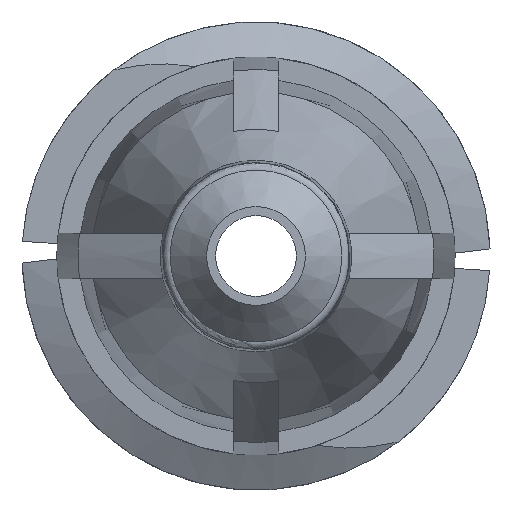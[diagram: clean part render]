
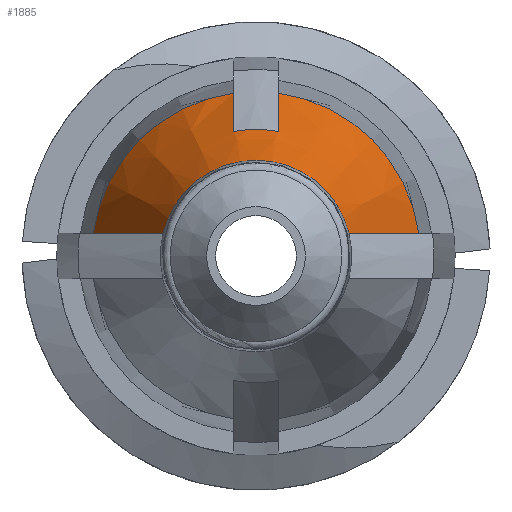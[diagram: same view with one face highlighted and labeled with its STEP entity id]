
A CAD part, front view. The second image highlights one B-rep face of the part: STEP entity #1885.
In plain terms, the highlighted conical face has half-angle 20 degrees and reference radius 2.745 mm.
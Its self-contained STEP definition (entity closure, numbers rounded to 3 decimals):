
#23 = CARTESIAN_POINT ( 'NONE',  ( 2.719, -10.312, 0.381 ) ) ;
#35 = CIRCLE ( 'NONE', #1357, 2.745 ) ;
#50 = B_SPLINE_CURVE_WITH_KNOTS ( 'NONE', 3,
 ( #81, #1373, #1864, #1890 ),
 .UNSPECIFIED., .F., .F.,
 ( 4, 4 ),
 ( 0.003, 0.007 ),
 .UNSPECIFIED. ) ;
#71 = CARTESIAN_POINT ( 'NONE',  ( -2.719, -10.312, 0.381 ) ) ;
#81 = CARTESIAN_POINT ( 'NONE',  ( 2.719, -10.312, 0.381 ) ) ;
#112 = CONICAL_SURFACE ( 'NONE', #945, 2.745, 0.349 ) ;
#205 = DIRECTION ( 'NONE',  ( 0., 1., 0. ) ) ;
#220 = VERTEX_POINT ( 'NONE', #443 ) ;
#227 = DIRECTION ( 'NONE',  ( 1., 0., 0. ) ) ;
#245 = EDGE_CURVE ( 'NONE', #1597, #777, #50, .T. ) ;
#330 = CIRCLE ( 'NONE', #1125, 2.745 ) ;
#374 = CARTESIAN_POINT ( 'NONE',  ( 0., -10.312, 0. ) ) ;
#395 = DIRECTION ( 'NONE',  ( 0., 1., 0. ) ) ;
#430 = ORIENTED_EDGE ( 'NONE', *, *, #678, .T. ) ;
#434 = CARTESIAN_POINT ( 'NONE',  ( 0., -12.038, 0. ) ) ;
#443 = CARTESIAN_POINT ( 'NONE',  ( -0.381, -10.312, 2.719 ) ) ;
#451 = CARTESIAN_POINT ( 'NONE',  ( -2.719, -10.312, 0.381 ) ) ;
#473 = CARTESIAN_POINT ( 'NONE',  ( -0.381, -10.888, 2.507 ) ) ;
#481 = CARTESIAN_POINT ( 'NONE',  ( 0.381, -12.038, 2.082 ) ) ;
#514 = CARTESIAN_POINT ( 'NONE',  ( 0.381, -10.312, 2.719 ) ) ;
#580 = CIRCLE ( 'NONE', #943, 2.117 ) ;
#594 = CARTESIAN_POINT ( 'NONE',  ( -0.381, -11.463, 2.295 ) ) ;
#602 = ORIENTED_EDGE ( 'NONE', *, *, #1614, .T. ) ;
#678 = EDGE_CURVE ( 'NONE', #1405, #220, #1277, .T. ) ;
#740 = DIRECTION ( 'NONE',  ( 0., 1., 0. ) ) ;
#741 = EDGE_CURVE ( 'NONE', #1202, #1230, #981, .T. ) ;
#746 = ORIENTED_EDGE ( 'NONE', *, *, #245, .F. ) ;
#761 = CARTESIAN_POINT ( 'NONE',  ( -0.381, -10.312, 2.719 ) ) ;
#777 = VERTEX_POINT ( 'NONE', #1637 ) ;
#795 = EDGE_CURVE ( 'NONE', #1422, #220, #35, .T. ) ;
#798 = DIRECTION ( 'NONE',  ( 0., 1., 0. ) ) ;
#819 = DIRECTION ( 'NONE',  ( 1., 0., 0. ) ) ;
#830 = EDGE_LOOP ( 'NONE', ( #746, #1796, #1199, #1826, #430, #1374, #1415, #602 ) ) ;
#943 = AXIS2_PLACEMENT_3D ( 'NONE', #434, #1225, #1060 ) ;
#945 = AXIS2_PLACEMENT_3D ( 'NONE', #1897, #740, #1889 ) ;
#981 = B_SPLINE_CURVE_WITH_KNOTS ( 'NONE', 3,
 ( #2084, #1587, #1598, #481 ),
 .UNSPECIFIED., .F., .F.,
 ( 4, 4 ),
 ( 0.003, 0.005 ),
 .UNSPECIFIED. ) ;
#1060 = DIRECTION ( 'NONE',  ( -1., 0., 0. ) ) ;
#1099 = EDGE_CURVE ( 'NONE', #1230, #1405, #580, .T. ) ;
#1125 = AXIS2_PLACEMENT_3D ( 'NONE', #374, #205, #1494 ) ;
#1164 = CARTESIAN_POINT ( 'NONE',  ( 0.381, -12.038, 2.082 ) ) ;
#1175 = CARTESIAN_POINT ( 'NONE',  ( -2.333, -11.362, 0.381 ) ) ;
#1199 = ORIENTED_EDGE ( 'NONE', *, *, #741, .T. ) ;
#1202 = VERTEX_POINT ( 'NONE', #514 ) ;
#1225 = DIRECTION ( 'NONE',  ( 0., -1., 0. ) ) ;
#1226 = CARTESIAN_POINT ( 'NONE',  ( -1.947, -12.411, 0.381 ) ) ;
#1230 = VERTEX_POINT ( 'NONE', #1164 ) ;
#1277 = B_SPLINE_CURVE_WITH_KNOTS ( 'NONE', 3,
 ( #1404, #594, #473, #761 ),
 .UNSPECIFIED., .F., .F.,
 ( 4, 4 ),
 ( 0.002, 0.004 ),
 .UNSPECIFIED. ) ;
#1357 = AXIS2_PLACEMENT_3D ( 'NONE', #1790, #798, #819 ) ;
#1373 = CARTESIAN_POINT ( 'NONE',  ( 2.333, -11.362, 0.381 ) ) ;
#1374 = ORIENTED_EDGE ( 'NONE', *, *, #795, .F. ) ;
#1404 = CARTESIAN_POINT ( 'NONE',  ( -0.381, -12.038, 2.082 ) ) ;
#1405 = VERTEX_POINT ( 'NONE', #1460 ) ;
#1415 = ORIENTED_EDGE ( 'NONE', *, *, #2027, .T. ) ;
#1422 = VERTEX_POINT ( 'NONE', #451 ) ;
#1460 = CARTESIAN_POINT ( 'NONE',  ( -0.381, -12.038, 2.082 ) ) ;
#1494 = DIRECTION ( 'NONE',  ( 1., 0., 0. ) ) ;
#1515 = VERTEX_POINT ( 'NONE', #1824 ) ;
#1587 = CARTESIAN_POINT ( 'NONE',  ( 0.381, -10.888, 2.507 ) ) ;
#1596 = EDGE_CURVE ( 'NONE', #1202, #1597, #330, .T. ) ;
#1597 = VERTEX_POINT ( 'NONE', #23 ) ;
#1598 = CARTESIAN_POINT ( 'NONE',  ( 0.381, -11.463, 2.295 ) ) ;
#1614 = EDGE_CURVE ( 'NONE', #1515, #777, #1968, .T. ) ;
#1637 = CARTESIAN_POINT ( 'NONE',  ( 1.554, -13.458, 0.381 ) ) ;
#1638 = AXIS2_PLACEMENT_3D ( 'NONE', #1681, #395, #227 ) ;
#1681 = CARTESIAN_POINT ( 'NONE',  ( 0., -13.458, 0. ) ) ;
#1790 = CARTESIAN_POINT ( 'NONE',  ( 0., -10.312, 0. ) ) ;
#1796 = ORIENTED_EDGE ( 'NONE', *, *, #1596, .F. ) ;
#1824 = CARTESIAN_POINT ( 'NONE',  ( -1.554, -13.458, 0.381 ) ) ;
#1826 = ORIENTED_EDGE ( 'NONE', *, *, #1099, .T. ) ;
#1864 = CARTESIAN_POINT ( 'NONE',  ( 1.947, -12.411, 0.381 ) ) ;
#1885 = ADVANCED_FACE ( 'NONE', ( #2077 ), #112, .T. ) ;
#1889 = DIRECTION ( 'NONE',  ( 1., 0., 0. ) ) ;
#1890 = CARTESIAN_POINT ( 'NONE',  ( 1.554, -13.458, 0.381 ) ) ;
#1897 = CARTESIAN_POINT ( 'NONE',  ( 0., -10.312, 0. ) ) ;
#1968 = CIRCLE ( 'NONE', #1638, 1.6 ) ;
#2027 = EDGE_CURVE ( 'NONE', #1422, #1515, #2076, .T. ) ;
#2031 = CARTESIAN_POINT ( 'NONE',  ( -1.554, -13.458, 0.381 ) ) ;
#2076 = B_SPLINE_CURVE_WITH_KNOTS ( 'NONE', 3,
 ( #71, #1175, #1226, #2031 ),
 .UNSPECIFIED., .F., .F.,
 ( 4, 4 ),
 ( 0.003, 0.007 ),
 .UNSPECIFIED. ) ;
#2077 = FACE_OUTER_BOUND ( 'NONE', #830, .T. ) ;
#2084 = CARTESIAN_POINT ( 'NONE',  ( 0.381, -10.312, 2.719 ) ) ;
